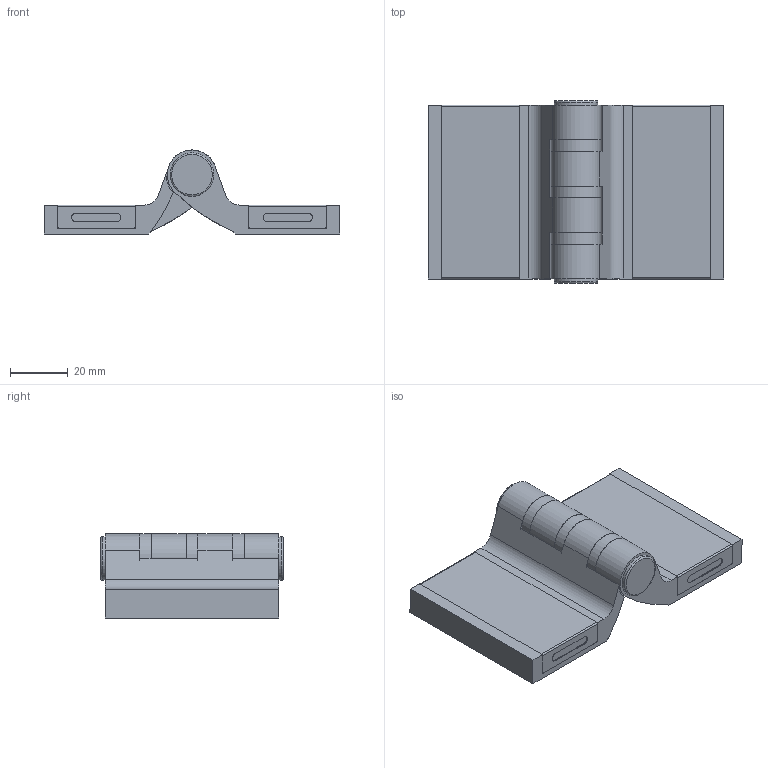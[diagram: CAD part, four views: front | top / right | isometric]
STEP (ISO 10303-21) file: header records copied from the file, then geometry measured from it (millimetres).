
FILE_DESCRIPTION(/* description */ (''),/* implementation_level */ '2;1');
FILE_NAME(/* name */ '\\NAS\db20\H-CV60-102\DR_H-CV60-102.stp',/* time_stamp */ '2017-08-24T11:09:19+09:00',/* author */ ('user'),/* organization */ (''),/* preprocessor_version */ 'ST-DEVELOPER v15.6',/* originating_system */ 'Autodesk Inventor 2015',/* authorisation */ '');
FILE_SCHEMA (('AUTOMOTIVE_DESIGN { 1 0 10303 214 3 1 1 }'));
Length unit declared in the file: millimetre
Products named in the file (5): DR_H-CV60-102-COVER; DR_H-CV60-102-P; DR_H-CV60-102-PIN; DR_H-CV60-102-WASHER; DR_H-CV60-102
Bounding box: 102 x 63 x 29 mm (x, y, z)
Volume: 43603 mm3; surface area: 38426.8 mm2
Topology: 8 solids, 8 shells, 287 faces, 725 edges, 478 vertices
Faces by surface type: plane 188, cylinder 97, torus 2
Full cylindrical faces by diameter (mm): 10 x8, 15 x2, 17 x3
Entity records: 4501 total; most frequent: DIRECTION 779, CARTESIAN_POINT 757, ORIENTED_EDGE 714, EDGE_CURVE 357, AXIS2_PLACEMENT_3D 263, LINE 253, VECTOR 253, VERTEX_POINT 241
